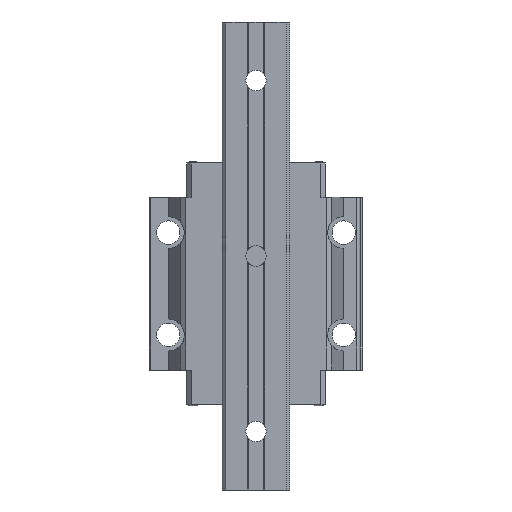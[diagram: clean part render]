
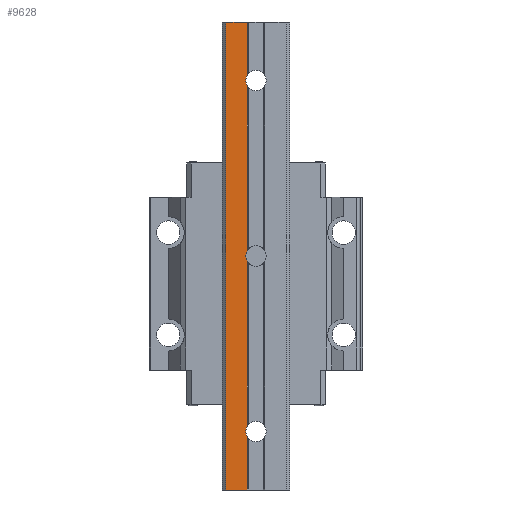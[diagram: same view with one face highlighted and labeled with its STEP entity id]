
A CAD part, front view. The second image highlights one B-rep face of the part: STEP entity #9628.
In plain terms, the highlighted planar face has unit normal (0, -1, 0).
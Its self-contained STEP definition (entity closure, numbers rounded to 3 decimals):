
#129 = EDGE_CURVE ( 'NONE', #15120, #11824, #1350, .T. ) ;
#326 = CARTESIAN_POINT ( 'NONE',  ( -36.5, -18., 60. ) ) ;
#631 = EDGE_CURVE ( 'NONE', #15120, #6514, #12907, .T. ) ;
#633 = CARTESIAN_POINT ( 'NONE',  ( -3., -18., -81.803 ) ) ;
#670 = VECTOR ( 'NONE', #2749, 1000. ) ;
#729 = CIRCLE ( 'NONE', #6033, 3.5 ) ;
#947 = ORIENTED_EDGE ( 'NONE', *, *, #10285, .T. ) ;
#1350 = LINE ( 'NONE', #5071, #8308 ) ;
#1406 = DIRECTION ( 'NONE',  ( 1., 0., 0. ) ) ;
#1421 = CARTESIAN_POINT ( 'NONE',  ( 0., -18., 40. ) ) ;
#1431 = DIRECTION ( 'NONE',  ( 0., 0., 1. ) ) ;
#1657 = VERTEX_POINT ( 'NONE', #633 ) ;
#1680 = DIRECTION ( 'NONE',  ( 0., -1., 0. ) ) ;
#2267 = VERTEX_POINT ( 'NONE', #3668 ) ;
#2749 = DIRECTION ( 'NONE',  ( 0., 0., 1. ) ) ;
#2781 = ORIENTED_EDGE ( 'NONE', *, *, #16064, .T. ) ;
#2922 = ORIENTED_EDGE ( 'NONE', *, *, #15037, .T. ) ;
#3043 = VERTEX_POINT ( 'NONE', #4715 ) ;
#3062 = EDGE_CURVE ( 'NONE', #2267, #6235, #12590, .T. ) ;
#3064 = EDGE_CURVE ( 'NONE', #6235, #6514, #10300, .T. ) ;
#3093 = AXIS2_PLACEMENT_3D ( 'NONE', #6996, #14739, #4621 ) ;
#3325 = CARTESIAN_POINT ( 'NONE',  ( -3., -18., -18.197 ) ) ;
#3575 = DIRECTION ( 'NONE',  ( 0., 1., 0. ) ) ;
#3668 = CARTESIAN_POINT ( 'NONE',  ( -3., -18., 38.197 ) ) ;
#4052 = ORIENTED_EDGE ( 'NONE', *, *, #9354, .T. ) ;
#4059 = PLANE ( 'NONE',  #8705 ) ;
#4621 = DIRECTION ( 'NONE',  ( 0., 0., 1. ) ) ;
#4715 = CARTESIAN_POINT ( 'NONE',  ( -3., -18., -100. ) ) ;
#5071 = CARTESIAN_POINT ( 'NONE',  ( -10.3, -18., -100. ) ) ;
#5378 = DIRECTION ( 'NONE',  ( 1., 0., 0. ) ) ;
#5611 = CARTESIAN_POINT ( 'NONE',  ( -3., -18., -100. ) ) ;
#6033 = AXIS2_PLACEMENT_3D ( 'NONE', #9650, #3575, #13648 ) ;
#6056 = ORIENTED_EDGE ( 'NONE', *, *, #129, .T. ) ;
#6235 = VERTEX_POINT ( 'NONE', #6453 ) ;
#6453 = CARTESIAN_POINT ( 'NONE',  ( -3., -18., 41.803 ) ) ;
#6514 = VERTEX_POINT ( 'NONE', #14171 ) ;
#6996 = CARTESIAN_POINT ( 'NONE',  ( 0., -18., -20. ) ) ;
#7237 = VECTOR ( 'NONE', #5378, 1000. ) ;
#7576 = DIRECTION ( 'NONE',  ( 0., 1., 0. ) ) ;
#7636 = CARTESIAN_POINT ( 'NONE',  ( -36.5, -18., -100. ) ) ;
#7643 = VECTOR ( 'NONE', #9191, 1000. ) ;
#7909 = DIRECTION ( 'NONE',  ( 0., 0., -1. ) ) ;
#8308 = VECTOR ( 'NONE', #10149, 1000. ) ;
#8633 = AXIS2_PLACEMENT_3D ( 'NONE', #1421, #7576, #16323 ) ;
#8705 = AXIS2_PLACEMENT_3D ( 'NONE', #10224, #1680, #7909 ) ;
#8756 = ORIENTED_EDGE ( 'NONE', *, *, #14357, .T. ) ;
#9191 = DIRECTION ( 'NONE',  ( 0., 0., 1. ) ) ;
#9354 = EDGE_CURVE ( 'NONE', #11082, #11379, #15459, .T. ) ;
#9572 = CARTESIAN_POINT ( 'NONE',  ( -3., -18., -21.803 ) ) ;
#9628 = ADVANCED_FACE ( 'NONE', ( #15417 ), #4059, .T. ) ;
#9650 = CARTESIAN_POINT ( 'NONE',  ( 0., -18., -80. ) ) ;
#9920 = ORIENTED_EDGE ( 'NONE', *, *, #631, .F. ) ;
#9987 = CIRCLE ( 'NONE', #3093, 3.5 ) ;
#10120 = LINE ( 'NONE', #15211, #15064 ) ;
#10149 = DIRECTION ( 'NONE',  ( 0., 0., -1. ) ) ;
#10150 = LINE ( 'NONE', #14148, #10829 ) ;
#10224 = CARTESIAN_POINT ( 'NONE',  ( -10.3, -18., -100. ) ) ;
#10285 = EDGE_CURVE ( 'NONE', #1657, #11082, #729, .T. ) ;
#10300 = LINE ( 'NONE', #11475, #670 ) ;
#10303 = VECTOR ( 'NONE', #1406, 1000. ) ;
#10580 = CARTESIAN_POINT ( 'NONE',  ( -10.3, -18., -100. ) ) ;
#10829 = VECTOR ( 'NONE', #1431, 1000. ) ;
#11082 = VERTEX_POINT ( 'NONE', #12957 ) ;
#11379 = VERTEX_POINT ( 'NONE', #9572 ) ;
#11475 = CARTESIAN_POINT ( 'NONE',  ( -3., -18., -100. ) ) ;
#11824 = VERTEX_POINT ( 'NONE', #10580 ) ;
#12044 = ORIENTED_EDGE ( 'NONE', *, *, #3064, .T. ) ;
#12575 = ORIENTED_EDGE ( 'NONE', *, *, #13290, .T. ) ;
#12590 = CIRCLE ( 'NONE', #8633, 3.5 ) ;
#12907 = LINE ( 'NONE', #326, #7237 ) ;
#12957 = CARTESIAN_POINT ( 'NONE',  ( -3., -18., -78.197 ) ) ;
#13290 = EDGE_CURVE ( 'NONE', #11824, #3043, #13886, .T. ) ;
#13648 = DIRECTION ( 'NONE',  ( 0., 0., 1. ) ) ;
#13879 = DIRECTION ( 'NONE',  ( 0., 0., 1. ) ) ;
#13886 = LINE ( 'NONE', #7636, #10303 ) ;
#14148 = CARTESIAN_POINT ( 'NONE',  ( -3., -18., -100. ) ) ;
#14171 = CARTESIAN_POINT ( 'NONE',  ( -3., -18., 60. ) ) ;
#14357 = EDGE_CURVE ( 'NONE', #15036, #2267, #10120, .T. ) ;
#14462 = ORIENTED_EDGE ( 'NONE', *, *, #3062, .T. ) ;
#14739 = DIRECTION ( 'NONE',  ( 0., 1., 0. ) ) ;
#14891 = EDGE_LOOP ( 'NONE', ( #6056, #12575, #2781, #947, #4052, #2922, #8756, #14462, #12044, #9920 ) ) ;
#15036 = VERTEX_POINT ( 'NONE', #3325 ) ;
#15037 = EDGE_CURVE ( 'NONE', #11379, #15036, #9987, .T. ) ;
#15064 = VECTOR ( 'NONE', #13879, 1000. ) ;
#15120 = VERTEX_POINT ( 'NONE', #15706 ) ;
#15211 = CARTESIAN_POINT ( 'NONE',  ( -3., -18., -100. ) ) ;
#15417 = FACE_OUTER_BOUND ( 'NONE', #14891, .T. ) ;
#15459 = LINE ( 'NONE', #5611, #7643 ) ;
#15706 = CARTESIAN_POINT ( 'NONE',  ( -10.3, -18., 60. ) ) ;
#16064 = EDGE_CURVE ( 'NONE', #3043, #1657, #10150, .T. ) ;
#16323 = DIRECTION ( 'NONE',  ( 0., 0., 1. ) ) ;
